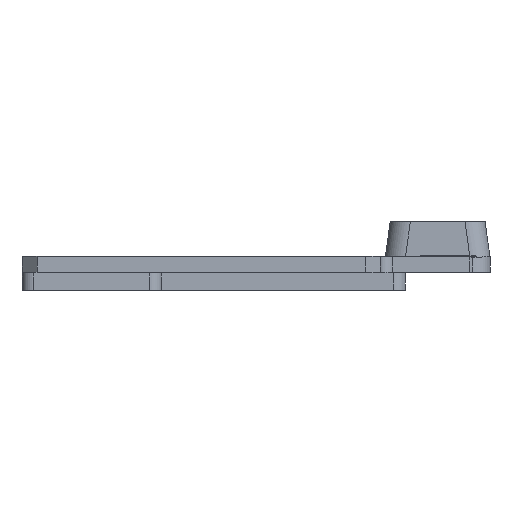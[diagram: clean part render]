
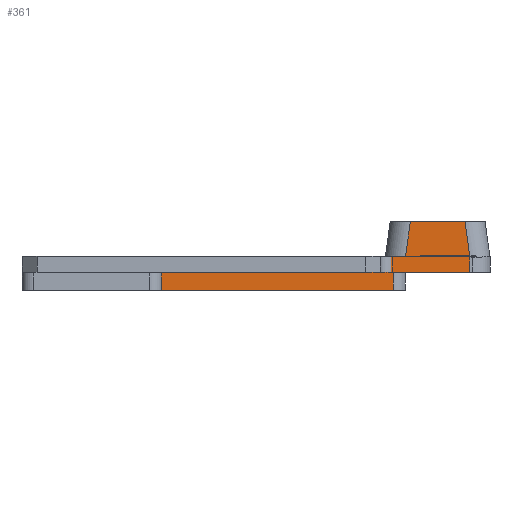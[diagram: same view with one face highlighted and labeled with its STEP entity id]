
A CAD part, left-side view. The second image highlights one B-rep face of the part: STEP entity #361.
In plain terms, the highlighted planar face has unit normal (-1, 0, 0).
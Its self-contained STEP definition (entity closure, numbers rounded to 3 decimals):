
#361 = ADVANCED_FACE( '', ( #697 ), #698, .T. );
#697 = FACE_OUTER_BOUND( '', #1052, .T. );
#698 = PLANE( '', #1053 );
#1052 = EDGE_LOOP( '', ( #1857, #1858, #1859, #1860, #1861, #1862, #1863, #1864, #1865 ) );
#1053 = AXIS2_PLACEMENT_3D( '', #1866, #1867, #1868 );
#1857 = ORIENTED_EDGE( '', *, *, #2233, .F. );
#1858 = ORIENTED_EDGE( '', *, *, #2234, .T. );
#1859 = ORIENTED_EDGE( '', *, *, #2216, .F. );
#1860 = ORIENTED_EDGE( '', *, *, #2222, .F. );
#1861 = ORIENTED_EDGE( '', *, *, #2227, .F. );
#1862 = ORIENTED_EDGE( '', *, *, #2235, .T. );
#1863 = ORIENTED_EDGE( '', *, *, #2236, .F. );
#1864 = ORIENTED_EDGE( '', *, *, #2237, .T. );
#1865 = ORIENTED_EDGE( '', *, *, #2238, .T. );
#1866 = CARTESIAN_POINT( '', ( -16.3, 0., 47. ) );
#1867 = DIRECTION( '', ( -1., 0., 0. ) );
#1868 = DIRECTION( '', ( 0., -1., 0. ) );
#2216 = EDGE_CURVE( '', #2629, #2631, #2632, .T. );
#2222 = EDGE_CURVE( '', #2640, #2629, #2642, .T. );
#2227 = EDGE_CURVE( '', #2650, #2640, #2652, .T. );
#2233 = EDGE_CURVE( '', #2662, #2663, #2664, .T. );
#2234 = EDGE_CURVE( '', #2662, #2631, #2665, .F. );
#2235 = EDGE_CURVE( '', #2650, #2666, #2667, .F. );
#2236 = EDGE_CURVE( '', #2668, #2666, #2669, .T. );
#2237 = EDGE_CURVE( '', #2668, #2670, #2671, .F. );
#2238 = EDGE_CURVE( '', #2670, #2663, #2672, .F. );
#2629 = VERTEX_POINT( '', #3195 );
#2631 = VERTEX_POINT( '', #3198 );
#2632 = LINE( '', #3199, #3200 );
#2640 = VERTEX_POINT( '', #3210 );
#2642 = LINE( '', #3213, #3214 );
#2650 = VERTEX_POINT( '', #3224 );
#2652 = LINE( '', #3226, #3227 );
#2662 = VERTEX_POINT( '', #3239 );
#2663 = VERTEX_POINT( '', #3240 );
#2664 = LINE( '', #3241, #3242 );
#2665 = LINE( '', #3243, #3244 );
#2666 = VERTEX_POINT( '', #3245 );
#2667 = LINE( '', #3246, #3247 );
#2668 = VERTEX_POINT( '', #3248 );
#2669 = LINE( '', #3249, #3250 );
#2670 = VERTEX_POINT( '', #3251 );
#2671 = LINE( '', #3252, #3253 );
#2672 = LINE( '', #3254, #3255 );
#3195 = CARTESIAN_POINT( '', ( -16.3, 0., 33. ) );
#3198 = CARTESIAN_POINT( '', ( -16.3, 0., 8.48 ) );
#3199 = CARTESIAN_POINT( '', ( -16.3, 0., 10.5 ) );
#3200 = VECTOR( '', #3689, 1000. );
#3210 = CARTESIAN_POINT( '', ( -16.3, 3.4, 33. ) );
#3213 = CARTESIAN_POINT( '', ( -16.3, 0., 33. ) );
#3214 = VECTOR( '', #3699, 1000. );
#3224 = CARTESIAN_POINT( '', ( -16.3, 3.4, 9.7 ) );
#3226 = CARTESIAN_POINT( '', ( -16.3, 3.4, 47. ) );
#3227 = VECTOR( '', #3708, 1000. );
#3239 = CARTESIAN_POINT( '', ( -16.3, -3.5, 7.988 ) );
#3240 = CARTESIAN_POINT( '', ( -16.3, -3.5, 2.512 ) );
#3241 = CARTESIAN_POINT( '', ( -16.3, -3.5, 10.008 ) );
#3242 = VECTOR( '', #3720, 1000. );
#3243 = CARTESIAN_POINT( '', ( -16.3, 5.309, 9.226 ) );
#3244 = VECTOR( '', #3721, 1000. );
#3245 = CARTESIAN_POINT( '', ( -16.3, 1.6, 9.7 ) );
#3246 = CARTESIAN_POINT( '', ( -16.3, 0., 9.7 ) );
#3247 = VECTOR( '', #3722, 1000. );
#3248 = CARTESIAN_POINT( '', ( -16.3, 1.6, 2. ) );
#3249 = CARTESIAN_POINT( '', ( -16.3, 1.6, 0. ) );
#3250 = VECTOR( '', #3723, 1000. );
#3251 = CARTESIAN_POINT( '', ( -16.3, 0.14, 2. ) );
#3252 = CARTESIAN_POINT( '', ( -16.3, 0., 2. ) );
#3253 = VECTOR( '', #3724, 1000. );
#3254 = CARTESIAN_POINT( '', ( -16.3, -6.199, 2.891 ) );
#3255 = VECTOR( '', #3725, 1000. );
#3689 = DIRECTION( '', ( 0., 0., -1. ) );
#3699 = DIRECTION( '', ( 0., -1., 0. ) );
#3708 = DIRECTION( '', ( 0., 0., 1. ) );
#3720 = DIRECTION( '', ( 0., 0., -1. ) );
#3721 = DIRECTION( '', ( 0., -0.99, -0.139 ) );
#3722 = DIRECTION( '', ( 0., 1., 0. ) );
#3723 = DIRECTION( '', ( 0., 0., 1. ) );
#3724 = DIRECTION( '', ( 0., 1., 0. ) );
#3725 = DIRECTION( '', ( 0., 0.99, -0.139 ) );
